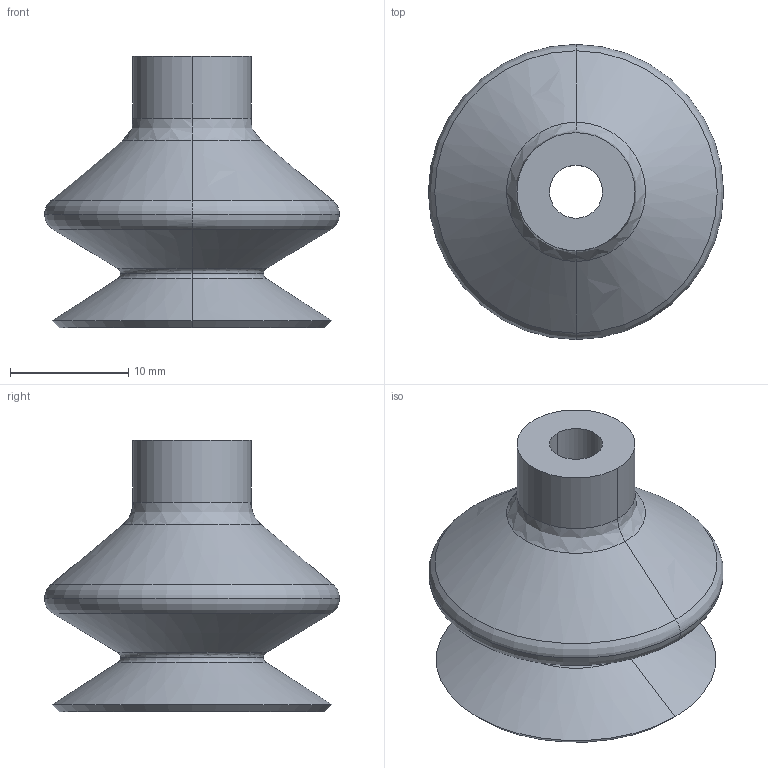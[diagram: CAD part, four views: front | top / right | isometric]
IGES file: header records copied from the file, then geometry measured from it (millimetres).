
Start section: 3D InterOp IGES (v. 2018 1.0.2), Spatial Corp. Copyright (c) 1999-2017.
Global section: file name: schmalz_10_01_06_00376_7xmy2etj7t2l5trniwd802sn9.igs; native system: Spatial Corp.; preprocessor: 3D InterOp ACIS/IGES; author: TraceParts; organization: TraceParts S.A.; date: 20181129.101007; units: millimetre
Bounding box: 25 x 25 x 23 mm (x, y, z)
Surface area: 2546 mm2 (no closed solid volume)
Topology: 0 solids, 0 shells, 32 faces, 128 edges, 128 vertices
Faces by surface type: revolution 28, extrusion 4
